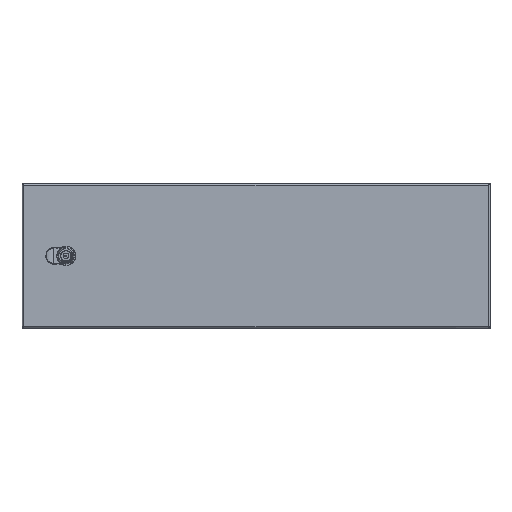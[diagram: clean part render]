
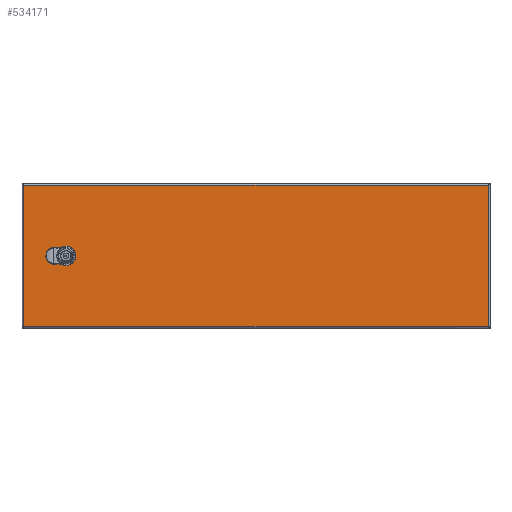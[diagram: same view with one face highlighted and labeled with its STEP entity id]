
A CAD part, top view. The second image highlights one B-rep face of the part: STEP entity #534171.
In plain terms, the highlighted planar face has unit normal (0, 0, 1).
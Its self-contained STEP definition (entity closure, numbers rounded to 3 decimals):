
#525796=CARTESIAN_POINT(' ',(-399.011,122.733,269.003));
#525797=VERTEX_POINT(' ',#525796);
#527231=CARTESIAN_POINT(' ',(389.389,122.733,269.003));
#527232=VERTEX_POINT(' ',#527231);
#528146=CARTESIAN_POINT(' ',(389.389,122.733,269.003));
#528151=DIRECTION(' ',(-1.,0.,0.));
#528156=VECTOR(' ',#528151,1.);
#528161=LINE('',#528146,#528156);
#528166=EDGE_CURVE(' ',#527232,#525797,#528161,.T.);
#532026=CARTESIAN_POINT(' ',(389.389,-116.667,269.003));
#532027=VERTEX_POINT(' ',#532026);
#533611=CARTESIAN_POINT(' ',(-399.011,-116.667,269.003));
#533612=VERTEX_POINT(' ',#533611);
#534041=DIRECTION(' ',(-0.,-0.,1.));
#534046=CARTESIAN_POINT(' ',(389.389,-116.667,269.003));
#534051=DIRECTION(' ',(0.,1.,0.));
#534056=AXIS2_PLACEMENT_3D(' ',#534046,#534041,#534051);
#534061=PLANE('NONE',#534056);
#534066=CARTESIAN_POINT(' ',(-399.011,-116.667,269.003));
#534071=DIRECTION(' ',(1.,0.,0.));
#534076=VECTOR(' ',#534071,1.);
#534081=LINE('',#534066,#534076);
#534086=EDGE_CURVE(' ',#533612,#532027,#534081,.T.);
#534091=ORIENTED_EDGE(' ',*,*,#534086,.T.);
#534096=CARTESIAN_POINT(' ',(389.389,122.733,269.003));
#534101=DIRECTION(' ',(0.,-1.,0.));
#534106=VECTOR(' ',#534101,1.);
#534111=LINE('',#534096,#534106);
#534116=EDGE_CURVE(' ',#527232,#532027,#534111,.T.);
#534121=ORIENTED_EDGE(' ',*,*,#534116,.F.);
#534126=ORIENTED_EDGE(' ',*,*,#528166,.T.);
#534131=CARTESIAN_POINT(' ',(-399.011,122.733,269.003));
#534136=DIRECTION(' ',(0.,-1.,0.));
#534141=VECTOR(' ',#534136,1.);
#534146=LINE('',#534131,#534141);
#534151=EDGE_CURVE(' ',#525797,#533612,#534146,.T.);
#534156=ORIENTED_EDGE(' ',*,*,#534151,.T.);
#534161=EDGE_LOOP(' ',(#534091,#534121,#534126,#534156));
#534166=FACE_OUTER_BOUND(' ',#534161,.T.);
#534171=ADVANCED_FACE('NONE',(#534166),#534061,.T.);
